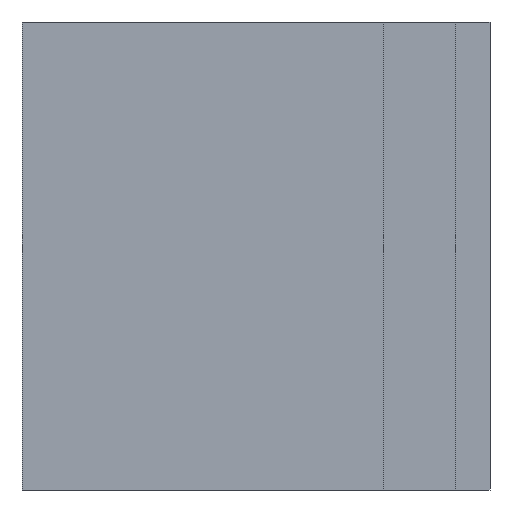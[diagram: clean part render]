
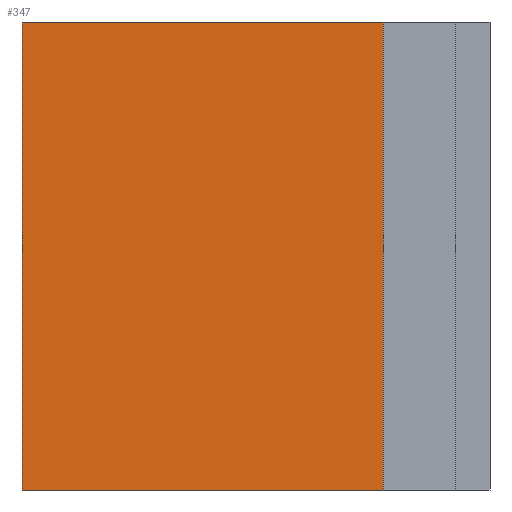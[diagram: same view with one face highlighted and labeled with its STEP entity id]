
A CAD part, left-side view. The second image highlights one B-rep face of the part: STEP entity #347.
In plain terms, the highlighted planar face has unit normal (-1, 0, 0).
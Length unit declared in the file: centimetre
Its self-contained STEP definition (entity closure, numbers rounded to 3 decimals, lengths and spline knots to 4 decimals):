
#12 = CARTESIAN_POINT ( 'NONE',  ( 0., 1000., 1000. ) ) ;
#30 = DIRECTION ( 'NONE',  ( 0., 0., -1. ) ) ;
#52 = EDGE_CURVE ( 'NONE', #475, #643, #297, .T. ) ;
#83 = EDGE_CURVE ( 'NONE', #475, #376, #624, .T. ) ;
#101 = ORIENTED_EDGE ( 'NONE', *, *, #660, .T. ) ;
#106 = VECTOR ( 'NONE', #520, 100. ) ;
#126 = CARTESIAN_POINT ( 'NONE',  ( 0., 1000., 1000. ) ) ;
#128 = ORIENTED_EDGE ( 'NONE', *, *, #83, .F. ) ;
#136 = VERTEX_POINT ( 'NONE', #179 ) ;
#179 = CARTESIAN_POINT ( 'NONE',  ( 0., 228.508, 0. ) ) ;
#200 = CARTESIAN_POINT ( 'NONE',  ( 0., 1000., 0. ) ) ;
#216 = PLANE ( 'NONE',  #336 ) ;
#227 = VECTOR ( 'NONE', #30, 100. ) ;
#279 = CARTESIAN_POINT ( 'NONE',  ( 0., 228.508, 1000. ) ) ;
#297 = LINE ( 'NONE', #404, #227 ) ;
#334 = DIRECTION ( 'NONE',  ( 0., 0., -1. ) ) ;
#336 = AXIS2_PLACEMENT_3D ( 'NONE', #12, #442, #334 ) ;
#347 = ADVANCED_FACE ( 'NONE', ( #592 ), #216, .F. ) ;
#350 = LINE ( 'NONE', #395, #106 ) ;
#354 = DIRECTION ( 'NONE',  ( 0., -1., 0. ) ) ;
#367 = LINE ( 'NONE', #200, #497 ) ;
#376 = VERTEX_POINT ( 'NONE', #279 ) ;
#395 = CARTESIAN_POINT ( 'NONE',  ( 0., 228.508, 0. ) ) ;
#402 = ORIENTED_EDGE ( 'NONE', *, *, #52, .T. ) ;
#404 = CARTESIAN_POINT ( 'NONE',  ( 0., 1000., 1000. ) ) ;
#405 = CARTESIAN_POINT ( 'NONE',  ( 0., 1000., 1000. ) ) ;
#430 = EDGE_LOOP ( 'NONE', ( #101, #645, #128, #402 ) ) ;
#442 = DIRECTION ( 'NONE',  ( 1., 0., 0. ) ) ;
#475 = VERTEX_POINT ( 'NONE', #405 ) ;
#486 = EDGE_CURVE ( 'NONE', #136, #376, #350, .T. ) ;
#497 = VECTOR ( 'NONE', #528, 100. ) ;
#520 = DIRECTION ( 'NONE',  ( 0., 0., 1. ) ) ;
#528 = DIRECTION ( 'NONE',  ( 0., -1., 0. ) ) ;
#582 = CARTESIAN_POINT ( 'NONE',  ( 0., 1000., 0. ) ) ;
#592 = FACE_OUTER_BOUND ( 'NONE', #430, .T. ) ;
#600 = VECTOR ( 'NONE', #354, 100. ) ;
#624 = LINE ( 'NONE', #126, #600 ) ;
#643 = VERTEX_POINT ( 'NONE', #582 ) ;
#645 = ORIENTED_EDGE ( 'NONE', *, *, #486, .T. ) ;
#660 = EDGE_CURVE ( 'NONE', #643, #136, #367, .T. ) ;
